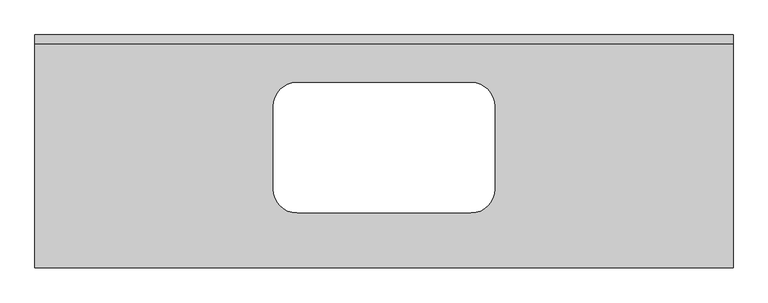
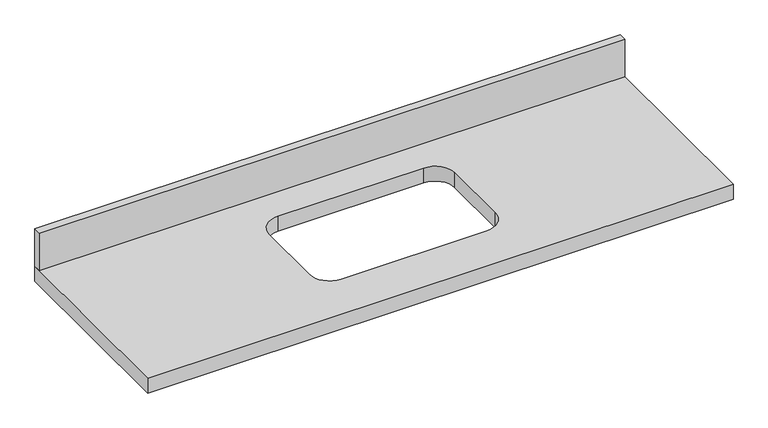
"""IFC4 building model written with IfcOpenShell, lengths in millimetres: furniture geometry, Topo de bancada do banheiro com buraco de pia  : Profundidade 600 mm."""

import ifcopenshell
import ifcopenshell.guid

model = None  # the IFC model being written
_history = None  # IfcOwnerHistory: only IFC2X3 demands one
_inside = {}  # id of a spatial element -> (the spatial element, [elements in it])
_under = {}  # id of a project, library or spatial element -> (it, [spatial elements below it])
_declared = {}  # id of a project -> (the project, [libraries it declares])
_typed = {}  # id of a type object -> (the type object, [elements of that type])
_made_of = {}  # id of a material, layer set ... -> (it, [elements and type objects made of it])


def new_model(schema):
    """Start an empty IFC model of exactly this schema.

    Asked for "IFC4X3", IfcOpenShell would pick the latest addendum, in which some entities
    have other attributes; the version numbers below select the first issue.
    IFC2X3 requires an IfcOwnerHistory on every rooted entity: one is made here for all.
    """
    global model, _history
    if schema == "IFC4X3":
        model = ifcopenshell.file(schema_version=(4, 3, 0, 0))
    else:
        model = ifcopenshell.file(schema=schema)
    _inside.clear()
    _under.clear()
    _declared.clear()
    _typed.clear()
    _made_of.clear()
    _history = None
    if model.schema == "IFC2X3":
        org = make("IfcOrganization", Name="unknown")
        user = make(
            "IfcPersonAndOrganization",
            ThePerson=make("IfcPerson", FamilyName="unknown"),
            TheOrganization=org,
        )
        app = make(
            "IfcApplication",
            ApplicationDeveloper=org,
            Version="unknown",
            ApplicationFullName="unknown",
            ApplicationIdentifier="unknown",
        )
        _history = make(
            "IfcOwnerHistory",
            OwningUser=user,
            OwningApplication=app,
            ChangeAction="ADDED",
            CreationDate=0,
        )
    return model


def make(cls, **values):
    """One entity of the class cls with the attributes given. An attribute that is None is left unset."""
    return model.create_entity(
        cls, **{name: value for name, value in values.items() if value is not None}
    )


def rooted(cls, **values):
    """An entity with a GlobalId (a new one), such as an element, a storey or a relation."""
    return make(cls, GlobalId=ifcopenshell.guid.new(), OwnerHistory=_history, **values)


def si_unit(unit_type, name, prefix=None):
    """IfcSIUnit, for example si_unit("LENGTHUNIT", "METRE", prefix="MILLI")."""
    return make("IfcSIUnit", UnitType=unit_type, Prefix=prefix, Name=name)


def assignment(units):
    """IfcUnitAssignment: the units of a project."""
    return None if units is None else make("IfcUnitAssignment", Units=units)


def point(xyz):
    """IfcCartesianPoint."""
    return None if xyz is None else make("IfcCartesianPoint", Coordinates=xyz)


def direction(xyz):
    """IfcDirection."""
    return None if xyz is None else make("IfcDirection", DirectionRatios=xyz)


def frame(location, z_axis=None, x_axis=None):
    """IfcAxis2Placement3D, a coordinate frame: its origin and axes. An axis left out is left unset."""
    return make(
        "IfcAxis2Placement3D",
        Location=point(location),
        Axis=direction(z_axis),
        RefDirection=direction(x_axis),
    )


def frame_2d(location, x_axis=None):
    """IfcAxis2Placement2D, a coordinate frame in the plane: its origin and x axis."""
    return make(
        "IfcAxis2Placement2D", Location=point(location), RefDirection=direction(x_axis)
    )


def origin():
    """The frame at (0, 0, 0) with its axes left unset."""
    return frame((0.0, 0.0, 0.0))


def place(relative_to, where):
    """IfcLocalPlacement: puts the frame where relative to a parent placement (None: the world)."""
    return make(
        "IfcLocalPlacement", PlacementRelTo=relative_to, RelativePlacement=where
    )


def context(
    kind, dimensions, precision=None, world=None, true_north=None, identifier=None
):
    """IfcGeometricRepresentationContext, for example the 3D "Model" context."""
    return make(
        "IfcGeometricRepresentationContext",
        ContextIdentifier=identifier,
        ContextType=kind,
        CoordinateSpaceDimension=dimensions,
        Precision=precision,
        WorldCoordinateSystem=world,
        TrueNorth=true_north,
    )


def project(units=None, contexts=None):
    """IfcProject with its units and contexts."""
    return rooted(
        "IfcProject",
        Name="project",
        RepresentationContexts=contexts,
        UnitsInContext=assignment(units),
    )


def spatial(cls, under=None, at=None, **own):
    """A site, building, storey or space (cls), placed at a placement, below another one or the project."""
    s = rooted(cls, ObjectPlacement=at, **own)
    if under is not None:
        _under.setdefault(under.id(), (under, []))[1].append(s)
    return s


def polyline(points):
    """IfcPolyline through the points."""
    return make("IfcPolyline", Points=[point(p) for p in points])


def circle_curve(where, radius):
    """IfcCircle in the frame where."""
    return make("IfcCircle", Position=where, Radius=radius)


def trimmed(basis, trim1, trim2, sense, master):
    """IfcTrimmedCurve: the piece of a basis curve between two trims."""
    return make(
        "IfcTrimmedCurve",
        BasisCurve=basis,
        Trim1=trim1,
        Trim2=trim2,
        SenseAgreement=sense,
        MasterRepresentation=master,
    )


def segment(curve, same_sense, transition):
    """IfcCompositeCurveSegment."""
    return make(
        "IfcCompositeCurveSegment",
        Transition=transition,
        SameSense=same_sense,
        ParentCurve=curve,
    )


def composite_curve(segments, self_intersect=None):
    """IfcCompositeCurve: segments joined end to end."""
    return make("IfcCompositeCurve", Segments=segments, SelfIntersect=self_intersect)


def outline(outer, holes=None, kind="AREA"):
    """IfcArbitraryClosedProfileDef: a profile drawn as a closed curve; with holes, ...WithVoids."""
    if holes is None:
        return make("IfcArbitraryClosedProfileDef", ProfileType=kind, OuterCurve=outer)
    return make(
        "IfcArbitraryProfileDefWithVoids",
        ProfileType=kind,
        OuterCurve=outer,
        InnerCurves=holes,
    )


def extrude(swept, where, along, depth):
    """IfcExtrudedAreaSolid: the profile swept, set in the frame where, extruded along a direction by depth."""
    return make(
        "IfcExtrudedAreaSolid",
        SweptArea=swept,
        Position=where,
        ExtrudedDirection=direction(along),
        Depth=depth,
    )


def shape(context_of_items, identifier, shape_type, items):
    """IfcShapeRepresentation: the items that make up one representation, for example the "Body"."""
    return make(
        "IfcShapeRepresentation",
        ContextOfItems=context_of_items,
        RepresentationIdentifier=identifier,
        RepresentationType=shape_type,
        Items=items,
    )


def source(mapping_origin, context_of_items, identifier, shape_type, items):
    """IfcRepresentationMap: a shape defined once, which mapped items show again and again."""
    return make(
        "IfcRepresentationMap",
        MappingOrigin=mapping_origin,
        MappedRepresentation=shape(context_of_items, identifier, shape_type, items),
    )


def transform(
    local_origin,
    x_axis=None,
    y_axis=None,
    z_axis=None,
    scale=None,
    scale2=None,
    scale3=None,
    uniform=True,
):
    """IfcCartesianTransformationOperator3D, or its non-uniform kind. x_axis, y_axis, z_axis: its Axis1, 2, 3."""
    if uniform:
        return make(
            "IfcCartesianTransformationOperator3D",
            Axis1=direction(x_axis),
            Axis2=direction(y_axis),
            LocalOrigin=point(local_origin),
            Scale=scale,
            Axis3=direction(z_axis),
        )
    return make(
        "IfcCartesianTransformationOperator3DnonUniform",
        Axis1=direction(x_axis),
        Axis2=direction(y_axis),
        LocalOrigin=point(local_origin),
        Scale=scale,
        Axis3=direction(z_axis),
        Scale2=scale2,
        Scale3=scale3,
    )


def mapped(mapping_source, mapping_target):
    """IfcMappedItem: shows the shape of a source again, moved by a transform."""
    return make(
        "IfcMappedItem", MappingSource=mapping_source, MappingTarget=mapping_target
    )


def made_of(thing, what):
    """Note that an element or type object is made of a material, layer set ...; save() writes the relation."""
    if what is not None:
        _made_of.setdefault(what.id(), (what, []))[1].append(thing)
    return thing


def element(
    cls,
    number,
    at=None,
    inside=None,
    cuts=None,
    type_object=None,
    material=None,
    context=None,
    identifier="Body",
    shape_type=None,
    held_by="IfcProductDefinitionShape",
    body=None,
    shapes=None,
    **own,
):
    """One element of the class cls, such as IfcWall. Its Tag is "e" and its number.

    at: its placement. inside: the storey or other place that contains it. cuts: it is an
    opening in that element (IfcRelVoidsElement). A single representation is given by context,
    identifier, shape_type and body (its items); several are given by shapes. held_by: the class
    of the entity that holds the representations. save() writes the other relations.
    """
    e = rooted(cls, Tag="e%d" % number, ObjectPlacement=at, **own)
    if body is not None:
        shapes = [shape(context, identifier, shape_type, body)]
    if shapes is not None:
        e.Representation = make(held_by, Representations=shapes)
    if inside is not None:
        _inside.setdefault(inside.id(), (inside, []))[1].append(e)
    if cuts is not None:
        rooted(
            "IfcRelVoidsElement", RelatingBuildingElement=cuts, RelatedOpeningElement=e
        )
    if type_object is not None:
        _typed.setdefault(type_object.id(), (type_object, []))[1].append(e)
    return made_of(e, material)


def aggregate(whole, parts):
    """IfcRelAggregates: a whole, such as a stair, and the parts it consists of."""
    return rooted("IfcRelAggregates", RelatingObject=whole, RelatedObjects=parts)


def save(model, path):
    """Write the relations noted so far, then the file.

    IfcRelAggregates (storeys below a building ...), IfcRelContainedInSpatialStructure (elements
    in a storey), IfcRelDefinesByType, IfcRelAssociatesMaterial and IfcRelDeclares: one each for
    every whole, place, type object, material and project.
    """
    for whole, parts in _under.values():
        aggregate(whole, parts)
    for where, things in _inside.values():
        rooted(
            "IfcRelContainedInSpatialStructure",
            RelatedElements=things,
            RelatingStructure=where,
        )
    for kind, things in _typed.values():
        rooted("IfcRelDefinesByType", RelatedObjects=things, RelatingType=kind)
    for what, things in _made_of.values():
        rooted("IfcRelAssociatesMaterial", RelatedObjects=things, RelatingMaterial=what)
    for by, libraries in _declared.values():
        rooted("IfcRelDeclares", RelatingContext=by, RelatedDefinitions=libraries)
    model.write(path)


def furniture_e2e67b1f(model_context):
    return source(origin(), model_context, "Body", "SweptSolid", [
        extrude(outline(polyline([(-1268.7247951, 0.0), (231.2752049, 0.0), (231.2752049, -19.05), (-1268.7247951, -19.05), (-1268.7247951, 0.0)])), frame((0.0, 0.0, 750.0), z_axis=(0.0, 0.0, 1.0), x_axis=(1.0, 0.0, 0.0)), (0.0, 0.0, 1.0), 101.6),
        extrude(outline(polyline([(231.2752049, 0.0), (231.2752049, -500.0), (-1268.7247951, -500.0), (-1268.7247951, 0.0), (231.2752049, 0.0)]), holes=[composite_curve([segment(trimmed(circle_curve(frame_2d((-705.6247951, -153.1)), 50.8), [point((-705.6247951, -102.3))], [point((-756.4247951, -153.1))], True, "CARTESIAN"), True, "CONTINUOUS"), segment(polyline([(-756.4247951, -153.1), (-756.4247951, -331.5)]), True, "CONTINUOUS"), segment(trimmed(circle_curve(frame_2d((-705.6247951, -331.5)), 50.8), [point((-756.4247951, -331.5))], [point((-705.6247951, -382.3))], True, "CARTESIAN"), True, "CONTINUOUS"), segment(polyline([(-705.6247951, -382.3), (-331.8247951, -382.3)]), True, "CONTINUOUS"), segment(trimmed(circle_curve(frame_2d((-331.8247951, -331.5)), 50.8), [point((-331.8247951, -382.3))], [point((-281.0247951, -331.5))], True, "CARTESIAN"), True, "CONTINUOUS"), segment(polyline([(-281.0247951, -331.5), (-281.0247951, -153.1)]), True, "CONTINUOUS"), segment(trimmed(circle_curve(frame_2d((-331.8247951, -153.1)), 50.8), [point((-281.0247951, -153.1))], [point((-331.8247951, -102.3))], True, "CARTESIAN"), True, "CONTINUOUS"), segment(polyline([(-331.8247951, -102.3), (-705.6247951, -102.3)]), True, "CONTINUOUS")], self_intersect=False)]), frame((0.0, 0.0, 710.0), z_axis=(0.0, 0.0, 1.0), x_axis=(1.0, 0.0, 0.0)), (0.0, 0.0, 1.0), 40.0),
    ])


if __name__ == "__main__":
    model = new_model("IFC4")
    model_context = context("Model", 3, world=origin())
    ifc_project = project(units=[si_unit("LENGTHUNIT", "METRE", prefix="MILLI")], contexts=[model_context])
    site = spatial("IfcSite", under=ifc_project)
    building = spatial("IfcBuilding", under=site)
    placement = place(None, origin())
    furniture_shape = furniture_e2e67b1f(model_context)
    element("IfcFurniture", 1, ObjectType="Topo de bancada do banheiro com buraco de pia  : Profundidade 600 mm", at=placement, inside=building, context=model_context, shape_type="MappedRepresentation", body=[
        mapped(furniture_shape, transform((0.0, 0.0, 0.0), x_axis=(1.0, 0.0, 0.0), y_axis=(0.0, 1.0, 0.0), z_axis=(0.0, 0.0, 1.0))),
    ])
    save(model, "model.ifc")
